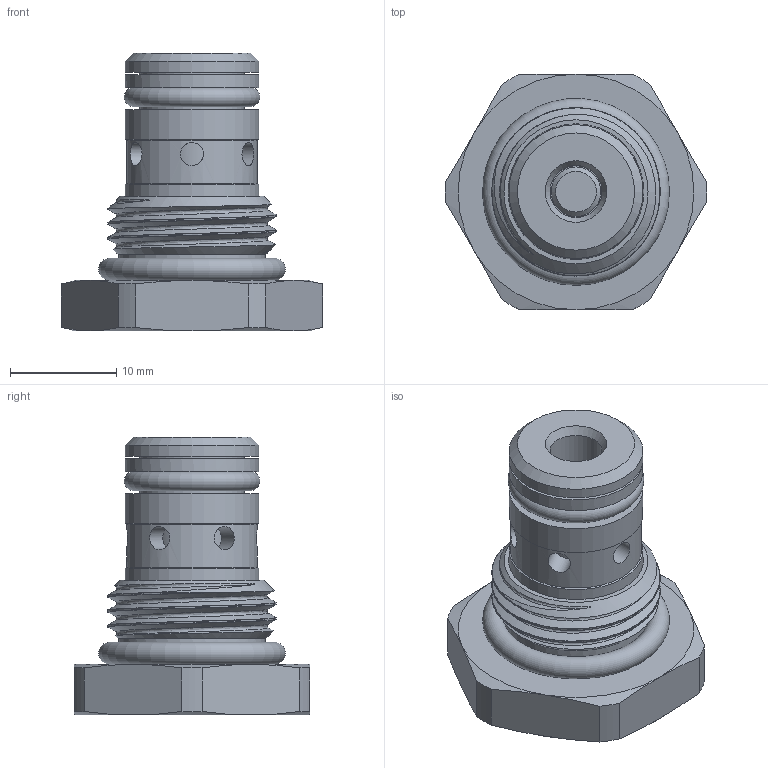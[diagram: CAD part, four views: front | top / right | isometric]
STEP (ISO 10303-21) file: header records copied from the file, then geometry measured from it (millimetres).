
FILE_DESCRIPTION(/* description */ (''),/* implementation_level */ '2;1');
FILE_NAME(/* name */ 'P:\EARS\EAR16xx\EAR1683 - catalog pages changes\Group1_Distribution 11_22_22\RTeck Agency_Tom\_step files\_Models\REF\HMACVA00.stp',/* time_stamp */ '2023-01-05T11:10:31-06:00',/* author */ ('Michael'),/* organization */ (''),/* preprocessor_version */ 'ST-DEVELOPER v17.2',/* originating_system */ 'Autodesk Inventor 2019',/* authorisation */ '');
FILE_SCHEMA (('AUTOMOTIVE_DESIGN { 1 0 10303 214 3 1 1 }'));
Length unit declared in the file: inch
Products named in the file (1): HMACVA00
Bounding box: 24.63 x 22.23 x 26.21 mm (x, y, z)
Volume: 4907.4 mm3; surface area: 3096.9 mm2
Topology: 2 solids, 2 shells, 86 faces, 212 edges, 142 vertices
Faces by surface type: cylinder 35, plane 22, cone 21, bspline 5, torus 3
Full cylindrical faces by diameter (mm): 2.184 x6, 4.902 x1, 9.842 x2, 12.344 x1, 12.624 x3, 12.7 x1, 13.805 x2, 15.875 x1
Entity records: 4711 total; most frequent: CARTESIAN_POINT 2627, ORIENTED_EDGE 428, DIRECTION 400, EDGE_CURVE 214, AXIS2_PLACEMENT_3D 176, VERTEX_POINT 144, EDGE_LOOP 100, CIRCLE 90
